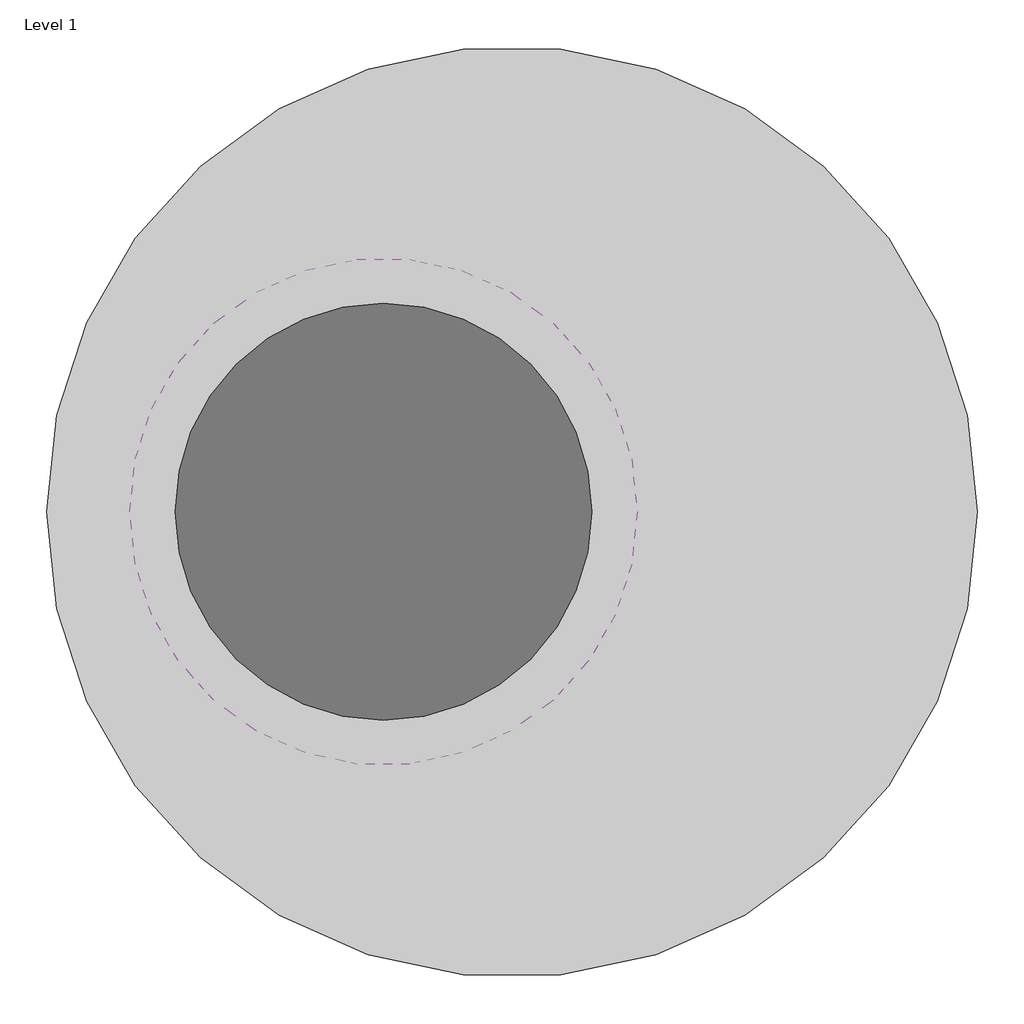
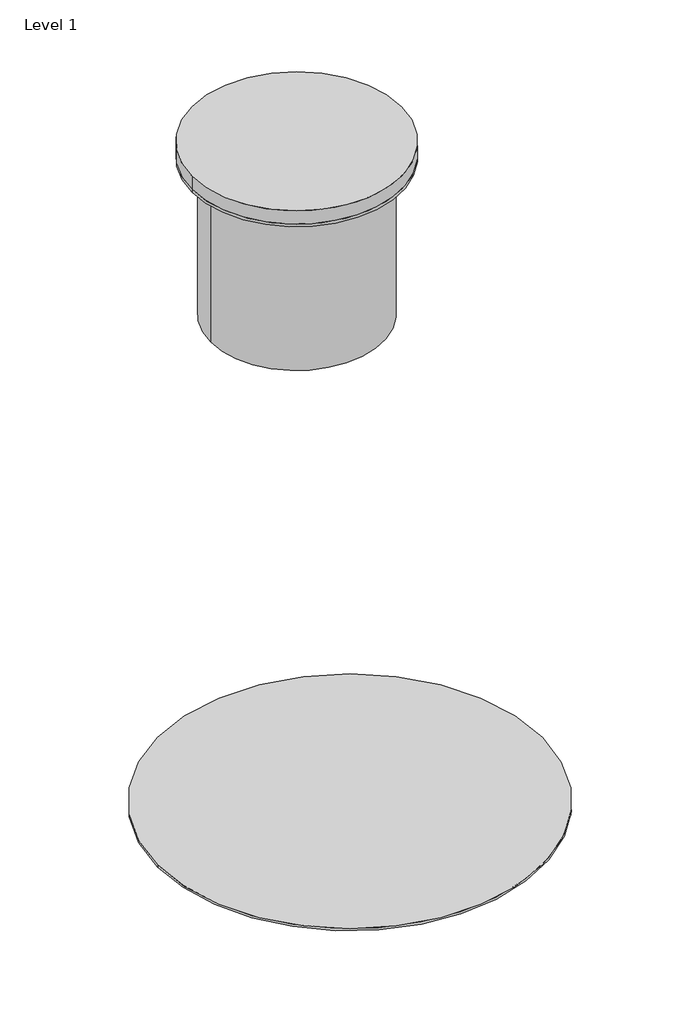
# One storey, incomplete: 3 proxies.
"""IFC4 building model written with IfcOpenShell, lengths in millimetres."""

from ifc_helpers import new_model, si_unit, origin, place, context, project, spatial, transform, mapped, element, save
from components import generic_models_fa2389d8, generic_models_b13ae392, generic_models_ece21d19

model = new_model("IFC4")

# Units and contexts
model_context = context("Model", 3, world=origin())
ifc_project = project(units=[si_unit("LENGTHUNIT", "METRE", prefix="MILLI")], contexts=[model_context])

# Site, building, storey
site = spatial("IfcSite", under=ifc_project)
building = spatial("IfcBuilding", under=site)
storey = spatial("IfcBuildingStorey", under=building, Name="Level 1", Elevation=0.0)

# Proxies
placement = place(None, origin())
generic_models_shape = generic_models_fa2389d8(model_context)
element("IfcBuildingElementProxy", 1, Name="600mmDia x 600mm High Riser", ObjectType="600mmDia x 600mm High Riser", at=placement, inside=storey, context=model_context, shape_type="MappedRepresentation", body=[
    mapped(generic_models_shape, transform((-190.0, 0.0, 800.0), x_axis=(1.0, 0.0, 0.0), y_axis=(0.0, 0.0, 1.0), z_axis=(0.0, -1.0, 0.0))),
])
generic_models_2_shape = generic_models_b13ae392(model_context)
element("IfcBuildingElementProxy", 2, Name="600mm Cass B Cover-02", ObjectType="600mm Cass B Cover-02", at=placement, inside=storey, context=model_context, shape_type="MappedRepresentation", body=[
    mapped(generic_models_2_shape, transform((-190.0, 0.0, 1400.0), x_axis=(1.0, 0.0, 0.0), y_axis=(0.0, 0.0, 1.0), z_axis=(0.0, -1.0, 0.0))),
])
generic_models_3_shape = generic_models_ece21d19(model_context)
element("IfcBuildingElementProxy", 3, Name="Ipart.TGPT.Base-09", ObjectType="Ipart.TGPT.Base-09", at=placement, inside=storey, context=model_context, shape_type="MappedRepresentation", body=[
    mapped(generic_models_3_shape, transform((0.0, 0.0, -1620.0), x_axis=(-1.0, 0.0, 0.0), y_axis=(0.0, 0.0, 1.0), z_axis=(0.0, 1.0, 0.0))),
])

save(model, "model.ifc")
